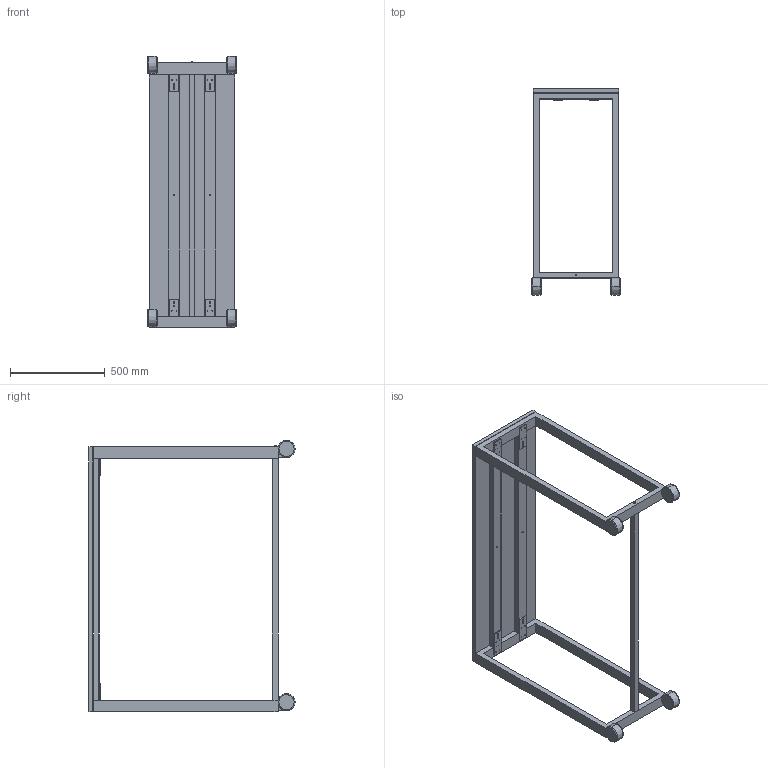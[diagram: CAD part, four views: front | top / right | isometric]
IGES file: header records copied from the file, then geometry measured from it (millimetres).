
Start section: SolidWorks IGES file using analytic representation for surfaces
Global section: file name: C:\Users\hcaixa\Documents\Gabinete Tecnico\72_produtos cliente\Timsteel\Mesas\Mesas Escritorio Operativas\Sistema Level Timsteel\AREIA-STUDIO FURNITURE CONCEPT\IGS\MESA ALTA 1400X450 H1100.IGS; native system: SolidWorks 2014; preprocessor: SolidWorks 2014; author: hcaixa; date: 190702.175202; units: millimetre
Bounding box: 470 x 1090 x 1434.78 mm (x, y, z)
Surface area: 3620268.1 mm2 (no closed solid volume)
Topology: 0 solids, 0 shells, 386 faces, 7840 edges, 7840 vertices
Faces by surface type: revolution 202, bspline 184
